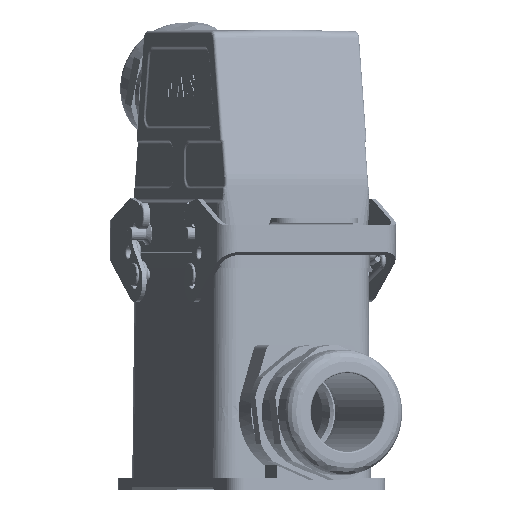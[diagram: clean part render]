
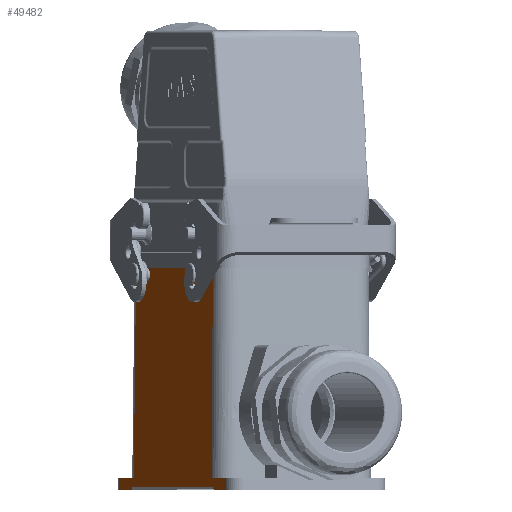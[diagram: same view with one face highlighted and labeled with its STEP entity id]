
A CAD part, left-side view. The second image highlights one B-rep face of the part: STEP entity #49482.
In plain terms, the highlighted planar face has unit normal (-0.383, 0.924, 0.009) as drawn and (0, -1, 0.009) by its records, which use the part's own axes.
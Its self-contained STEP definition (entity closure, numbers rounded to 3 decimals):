
#5578 = LINE ( 'NONE', #25355, #40384 ) ;
#7679 = EDGE_CURVE ( 'NONE', #101109, #56562, #122650, .T. ) ;
#8101 = EDGE_CURVE ( 'NONE', #199853, #77931, #53676, .T. ) ;
#11454 = EDGE_CURVE ( 'NONE', #101109, #192267, #13771, .T. ) ;
#12215 = LINE ( 'NONE', #83175, #73688 ) ;
#13771 = LINE ( 'NONE', #68380, #165605 ) ;
#15735 = CARTESIAN_POINT ( 'NONE',  ( 52.25, -29.136, -50. ) ) ;
#17392 = CARTESIAN_POINT ( 'NONE',  ( 52.25, -28.476, 25.7 ) ) ;
#19100 = DIRECTION ( 'NONE',  ( 1., 0., 0. ) ) ;
#21507 = DIRECTION ( 'NONE',  ( -1., 0., 0. ) ) ;
#22044 = LINE ( 'NONE', #88387, #226782 ) ;
#23216 = ORIENTED_EDGE ( 'NONE', *, *, #86415, .T. ) ;
#23360 = CARTESIAN_POINT ( 'NONE',  ( 52.25, -29.102, -46. ) ) ;
#23661 = ORIENTED_EDGE ( 'NONE', *, *, #188697, .T. ) ;
#23768 = CARTESIAN_POINT ( 'NONE',  ( 52.25, -29.102, -46. ) ) ;
#25355 = CARTESIAN_POINT ( 'NONE',  ( 52.25, -29.136, -50. ) ) ;
#26539 = EDGE_CURVE ( 'NONE', #48611, #108818, #175078, .T. ) ;
#26559 = EDGE_CURVE ( 'NONE', #63873, #199853, #41201, .T. ) ;
#27930 = LINE ( 'NONE', #81461, #127996 ) ;
#27997 = CARTESIAN_POINT ( 'NONE',  ( -47.75, -29.136, -50. ) ) ;
#29317 = CARTESIAN_POINT ( 'NONE',  ( -34.549, -28.886, -21.263 ) ) ;
#30080 = DIRECTION ( 'NONE',  ( -0.707, -0.006, -0.707 ) ) ;
#36688 = VECTOR ( 'NONE', #19100, 1000. ) ;
#40384 = VECTOR ( 'NONE', #43935, 1000. ) ;
#41201 = LINE ( 'NONE', #23768, #140195 ) ;
#43935 = DIRECTION ( 'NONE',  ( 1., 0., 0. ) ) ;
#47926 = DIRECTION ( 'NONE',  ( -1., 0., 0. ) ) ;
#48611 = VERTEX_POINT ( 'NONE', #189010 ) ;
#49482 = ADVANCED_FACE ( 'NONE', ( #208254 ), #158138, .T. ) ;
#50176 = ORIENTED_EDGE ( 'NONE', *, *, #67171, .T. ) ;
#50894 = LINE ( 'NONE', #121894, #187117 ) ;
#52533 = DIRECTION ( 'NONE',  ( 0., -0.009, -1. ) ) ;
#53676 = LINE ( 'NONE', #85165, #226376 ) ;
#53880 = LINE ( 'NONE', #72476, #72608 ) ;
#55239 = ORIENTED_EDGE ( 'NONE', *, *, #11454, .F. ) ;
#56562 = VERTEX_POINT ( 'NONE', #159975 ) ;
#57637 = CARTESIAN_POINT ( 'NONE',  ( 34.139, -28.476, 25.7 ) ) ;
#58504 = ORIENTED_EDGE ( 'NONE', *, *, #152586, .F. ) ;
#63873 = VERTEX_POINT ( 'NONE', #207855 ) ;
#67171 = EDGE_CURVE ( 'NONE', #80328, #88893, #109754, .T. ) ;
#68380 = CARTESIAN_POINT ( 'NONE',  ( -35.75, -29.128, -49. ) ) ;
#72476 = CARTESIAN_POINT ( 'NONE',  ( 47.75, -28.476, 25.7 ) ) ;
#72608 = VECTOR ( 'NONE', #211002, 1000. ) ;
#73688 = VECTOR ( 'NONE', #227434, 1000. ) ;
#75685 = LINE ( 'NONE', #23360, #212531 ) ;
#77257 = ORIENTED_EDGE ( 'NONE', *, *, #192467, .T. ) ;
#77931 = VERTEX_POINT ( 'NONE', #27997 ) ;
#80328 = VERTEX_POINT ( 'NONE', #113291 ) ;
#81461 = CARTESIAN_POINT ( 'NONE',  ( 34.549, -28.886, -21.263 ) ) ;
#82623 = VECTOR ( 'NONE', #47926, 1000. ) ;
#83175 = CARTESIAN_POINT ( 'NONE',  ( -34.139, -28.476, 25.7 ) ) ;
#83731 = VERTEX_POINT ( 'NONE', #167537 ) ;
#84092 = AXIS2_PLACEMENT_3D ( 'NONE', #17392, #173286, #191878 ) ;
#85074 = ORIENTED_EDGE ( 'NONE', *, *, #26559, .T. ) ;
#85165 = CARTESIAN_POINT ( 'NONE',  ( -47.75, -28.476, 25.7 ) ) ;
#86415 = EDGE_CURVE ( 'NONE', #77931, #192267, #5578, .T. ) ;
#88387 = CARTESIAN_POINT ( 'NONE',  ( 36.75, -29.136, -50. ) ) ;
#88893 = VERTEX_POINT ( 'NONE', #136163 ) ;
#90968 = ORIENTED_EDGE ( 'NONE', *, *, #179543, .T. ) ;
#94608 = DIRECTION ( 'NONE',  ( -0.009, 0.009, 1. ) ) ;
#96430 = CARTESIAN_POINT ( 'NONE',  ( -47.75, -29.102, -46. ) ) ;
#99083 = ORIENTED_EDGE ( 'NONE', *, *, #7679, .T. ) ;
#101039 = VERTEX_POINT ( 'NONE', #123067 ) ;
#101109 = VERTEX_POINT ( 'NONE', #174223 ) ;
#101172 = CARTESIAN_POINT ( 'NONE',  ( -34.549, -28.886, -21.263 ) ) ;
#102590 = CARTESIAN_POINT ( 'NONE',  ( 52.25, -28.476, 25.7 ) ) ;
#105385 = CARTESIAN_POINT ( 'NONE',  ( 47.75, -29.102, -46. ) ) ;
#106051 = EDGE_CURVE ( 'NONE', #83731, #187620, #12215, .T. ) ;
#108818 = VERTEX_POINT ( 'NONE', #198622 ) ;
#109754 = LINE ( 'NONE', #134114, #223300 ) ;
#112098 = ORIENTED_EDGE ( 'NONE', *, *, #8101, .T. ) ;
#113291 = CARTESIAN_POINT ( 'NONE',  ( 34.765, -29.102, -46. ) ) ;
#113699 = ORIENTED_EDGE ( 'NONE', *, *, #131969, .T. ) ;
#121894 = CARTESIAN_POINT ( 'NONE',  ( 34.584, -28.921, -25.355 ) ) ;
#122650 = LINE ( 'NONE', #140087, #36688 ) ;
#123067 = CARTESIAN_POINT ( 'NONE',  ( -34.584, -28.921, -25.355 ) ) ;
#124190 = ORIENTED_EDGE ( 'NONE', *, *, #175930, .T. ) ;
#127996 = VECTOR ( 'NONE', #94608, 1000. ) ;
#130375 = DIRECTION ( 'NONE',  ( -1., 0., 0. ) ) ;
#131969 = EDGE_CURVE ( 'NONE', #226969, #163645, #27930, .T. ) ;
#134114 = CARTESIAN_POINT ( 'NONE',  ( 34.765, -29.102, -46. ) ) ;
#135877 = EDGE_LOOP ( 'NONE', ( #142606, #113699, #23661, #166292, #77257, #90968, #85074, #112098, #23216, #55239, #99083, #58504, #173677, #213676, #124190, #50176 ) ) ;
#136078 = DIRECTION ( 'NONE',  ( -0.009, -0.009, -1. ) ) ;
#136163 = CARTESIAN_POINT ( 'NONE',  ( 34.584, -28.921, -25.355 ) ) ;
#137508 = LINE ( 'NONE', #102590, #82623 ) ;
#139024 = VECTOR ( 'NONE', #136078, 1000. ) ;
#140087 = CARTESIAN_POINT ( 'NONE',  ( 52.25, -29.128, -49. ) ) ;
#140195 = VECTOR ( 'NONE', #21507, 1000. ) ;
#141346 = DIRECTION ( 'NONE',  ( 1., 0., 0. ) ) ;
#142092 = LINE ( 'NONE', #160689, #172095 ) ;
#142606 = ORIENTED_EDGE ( 'NONE', *, *, #157834, .T. ) ;
#152586 = EDGE_CURVE ( 'NONE', #48611, #56562, #22044, .T. ) ;
#157834 = EDGE_CURVE ( 'NONE', #88893, #226969, #50894, .T. ) ;
#157899 = DIRECTION ( 'NONE',  ( -0.009, 0.009, 1. ) ) ;
#158138 = PLANE ( 'NONE',  #84092 ) ;
#159975 = CARTESIAN_POINT ( 'NONE',  ( 35.75, -29.128, -49. ) ) ;
#160689 = CARTESIAN_POINT ( 'NONE',  ( -34.584, -28.921, -25.355 ) ) ;
#163645 = VERTEX_POINT ( 'NONE', #57637 ) ;
#165605 = VECTOR ( 'NONE', #30080, 1000. ) ;
#166292 = ORIENTED_EDGE ( 'NONE', *, *, #106051, .T. ) ;
#167537 = CARTESIAN_POINT ( 'NONE',  ( -34.139, -28.476, 25.7 ) ) ;
#167640 = CARTESIAN_POINT ( 'NONE',  ( -36.75, -29.136, -50. ) ) ;
#172095 = VECTOR ( 'NONE', #229442, 1000. ) ;
#173222 = LINE ( 'NONE', #101172, #139024 ) ;
#173286 = DIRECTION ( 'NONE',  ( 0., -1., 0.009 ) ) ;
#173677 = ORIENTED_EDGE ( 'NONE', *, *, #26539, .T. ) ;
#174223 = CARTESIAN_POINT ( 'NONE',  ( -35.75, -29.128, -49. ) ) ;
#175078 = LINE ( 'NONE', #15735, #192136 ) ;
#175930 = EDGE_CURVE ( 'NONE', #206270, #80328, #75685, .T. ) ;
#179543 = EDGE_CURVE ( 'NONE', #101039, #63873, #142092, .T. ) ;
#183307 = EDGE_CURVE ( 'NONE', #108818, #206270, #53880, .T. ) ;
#187117 = VECTOR ( 'NONE', #157899, 1000. ) ;
#187620 = VERTEX_POINT ( 'NONE', #29317 ) ;
#188697 = EDGE_CURVE ( 'NONE', #163645, #83731, #137508, .T. ) ;
#189010 = CARTESIAN_POINT ( 'NONE',  ( 36.75, -29.136, -50. ) ) ;
#191878 = DIRECTION ( 'NONE',  ( -1., 0., 0. ) ) ;
#192136 = VECTOR ( 'NONE', #141346, 1000. ) ;
#192267 = VERTEX_POINT ( 'NONE', #167640 ) ;
#192467 = EDGE_CURVE ( 'NONE', #187620, #101039, #173222, .T. ) ;
#198622 = CARTESIAN_POINT ( 'NONE',  ( 47.75, -29.136, -50. ) ) ;
#199853 = VERTEX_POINT ( 'NONE', #96430 ) ;
#206270 = VERTEX_POINT ( 'NONE', #105385 ) ;
#207855 = CARTESIAN_POINT ( 'NONE',  ( -34.765, -29.102, -46. ) ) ;
#208254 = FACE_OUTER_BOUND ( 'NONE', #135877, .T. ) ;
#211002 = DIRECTION ( 'NONE',  ( 0., 0.009, 1. ) ) ;
#212531 = VECTOR ( 'NONE', #130375, 1000. ) ;
#213676 = ORIENTED_EDGE ( 'NONE', *, *, #183307, .T. ) ;
#215189 = DIRECTION ( 'NONE',  ( -0.707, 0.006, 0.707 ) ) ;
#216701 = CARTESIAN_POINT ( 'NONE',  ( 34.549, -28.886, -21.263 ) ) ;
#223300 = VECTOR ( 'NONE', #223701, 1000. ) ;
#223701 = DIRECTION ( 'NONE',  ( -0.009, 0.009, 1. ) ) ;
#226376 = VECTOR ( 'NONE', #52533, 1000. ) ;
#226782 = VECTOR ( 'NONE', #215189, 1000. ) ;
#226969 = VERTEX_POINT ( 'NONE', #216701 ) ;
#227434 = DIRECTION ( 'NONE',  ( -0.009, -0.009, -1. ) ) ;
#229442 = DIRECTION ( 'NONE',  ( -0.009, -0.009, -1. ) ) ;
